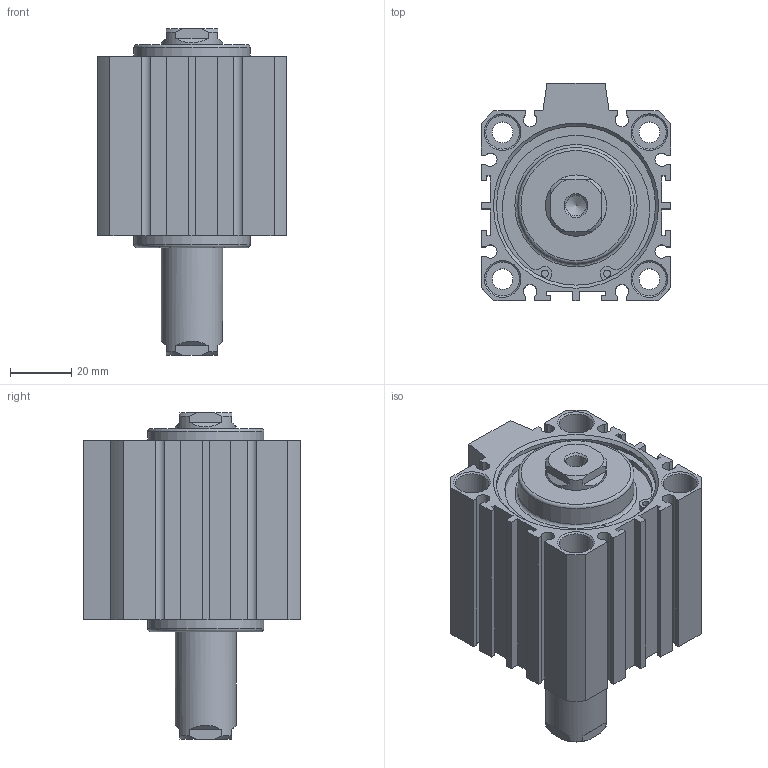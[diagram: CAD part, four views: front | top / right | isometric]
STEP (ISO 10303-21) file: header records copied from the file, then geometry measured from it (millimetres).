
FILE_DESCRIPTION((''),'2;1');
FILE_NAME('I:\3D電子目錄\氣缸\JDD\JDD\JDD50\JDD50x30.stp','2007-02-08T11:08:19',('662F206'),(''),'Autodesk Inventor 10','Autodesk Inventor 10','');
FILE_SCHEMA(('AUTOMOTIVE_DESIGN { 1 0 10303 214 1 1 1 1 }'));
Length unit declared in the file: millimetre
Products named in the file (3): JDD50; R 形環 52
Assembly tree (3 placements, depth 2):
  JDD50
    JDD50
    R 形環 52  x2
Bounding box: 62 x 71 x 106.6 mm (x, y, z)
Volume: 214034.7 mm3; surface area: 47374 mm2
Topology: 3 solids, 3 shells, 200 faces, 502 edges, 330 vertices
Faces by surface type: plane 116, cylinder 52, cone 24, bspline 6, torus 2
Full cylindrical faces by diameter (mm): 2.3 x4, 2.7 x2, 6.8 x4, 11 x8, 20 x2, 38 x2, 52 x4, 55 x2
Entity records: 5511 total; most frequent: CARTESIAN_POINT 1094, DIRECTION 908, ORIENTED_EDGE 824, EDGE_CURVE 412, AXIS2_PLACEMENT_3D 324, VERTEX_POINT 300, EDGE_LOOP 272, VECTOR 260
